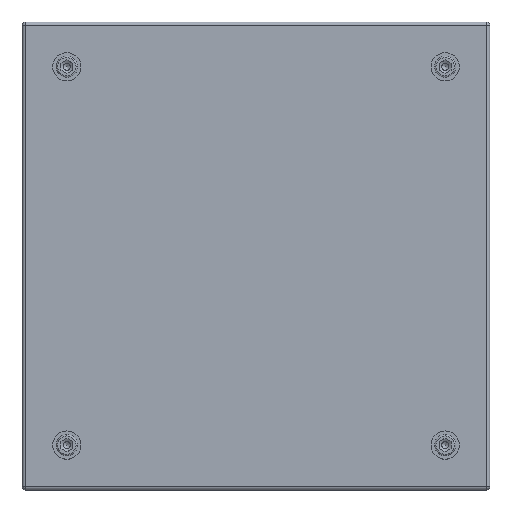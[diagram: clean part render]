
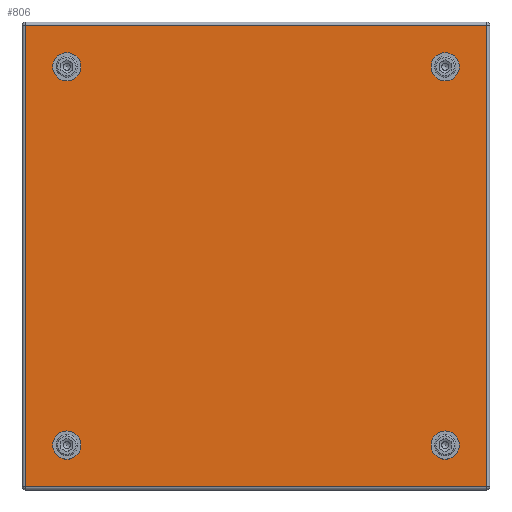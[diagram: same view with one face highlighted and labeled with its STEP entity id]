
A CAD part, top view. The second image highlights one B-rep face of the part: STEP entity #806.
In plain terms, the highlighted planar face has unit normal (0, 0, 1).
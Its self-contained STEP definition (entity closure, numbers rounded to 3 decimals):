
#806=ADVANCED_FACE('',(#3204,#3206,#3208,#3210,#3212),#3214,.T.);
#3204=FACE_BOUND('',#3205,.T.);
#3205=EDGE_LOOP('',(#8454,#8455,#8456,#8457));
#3206=FACE_BOUND('',#3207,.T.);
#3207=EDGE_LOOP('',(#8458));
#3208=FACE_BOUND('',#3209,.T.);
#3209=EDGE_LOOP('',(#8459));
#3210=FACE_BOUND('',#3211,.T.);
#3211=EDGE_LOOP('',(#8460));
#3212=FACE_BOUND('',#3213,.T.);
#3213=EDGE_LOOP('',(#8461));
#3214=PLANE('',#3215);
#3215=AXIS2_PLACEMENT_3D('',#3216,#3217,#3218);
#3216=CARTESIAN_POINT('',(0.,0.,0.));
#3217=DIRECTION('',(0.,0.,1.));
#3218=DIRECTION('',(0.,1.,0.));
#8454=ORIENTED_EDGE('',*,*,#10824,.T.);
#8455=ORIENTED_EDGE('',*,*,#10864,.T.);
#8456=ORIENTED_EDGE('',*,*,#10808,.T.);
#8457=ORIENTED_EDGE('',*,*,#10865,.T.);
#8458=ORIENTED_EDGE('',*,*,#10866,.T.);
#8459=ORIENTED_EDGE('',*,*,#10867,.T.);
#8460=ORIENTED_EDGE('',*,*,#10868,.T.);
#8461=ORIENTED_EDGE('',*,*,#10869,.T.);
#10808=EDGE_CURVE('',#12851,#12849,#12852,.T.);
#10824=EDGE_CURVE('',#12875,#12873,#12876,.T.);
#10864=EDGE_CURVE('',#12873,#12851,#12938,.T.);
#10865=EDGE_CURVE('',#12849,#12875,#12939,.T.);
#10866=EDGE_CURVE('',#12940,#12940,#12941,.F.);
#10867=EDGE_CURVE('',#12942,#12942,#12943,.F.);
#10868=EDGE_CURVE('',#12944,#12944,#12945,.F.);
#10869=EDGE_CURVE('',#12946,#12946,#12947,.F.);
#12849=VERTEX_POINT('',#16853);
#12851=VERTEX_POINT('',#16858);
#12852=LINE('',#16859,#16860);
#12873=VERTEX_POINT('',#16917);
#12875=VERTEX_POINT('',#16922);
#12876=LINE('',#16923,#16924);
#12938=LINE('',#17089,#17090);
#12939=LINE('',#17092,#17093);
#12940=VERTEX_POINT('',#17095);
#12941=CIRCLE('',#17096,8.);
#12942=VERTEX_POINT('',#17100);
#12943=CIRCLE('',#17101,8.);
#12944=VERTEX_POINT('',#17105);
#12945=CIRCLE('',#17106,8.);
#12946=VERTEX_POINT('',#17110);
#12947=CIRCLE('',#17111,8.);
#16853=CARTESIAN_POINT('',(195.7,-195.7,0.));
#16858=CARTESIAN_POINT('',(-195.7,-195.7,0.));
#16859=CARTESIAN_POINT('',(-195.7,-195.7,0.));
#16860=VECTOR('',#16861,1.);
#16861=DIRECTION('',(1.,0.,0.));
#16917=CARTESIAN_POINT('',(-195.7,195.7,0.));
#16922=CARTESIAN_POINT('',(195.7,195.7,0.));
#16923=CARTESIAN_POINT('',(195.7,195.7,0.));
#16924=VECTOR('',#16925,1.);
#16925=DIRECTION('',(-1.,0.,0.));
#17089=CARTESIAN_POINT('',(-195.7,195.7,0.));
#17090=VECTOR('',#17091,1.);
#17091=DIRECTION('',(0.,-1.,0.));
#17092=CARTESIAN_POINT('',(195.7,-195.7,0.));
#17093=VECTOR('',#17094,1.);
#17094=DIRECTION('',(0.,1.,0.));
#17095=CARTESIAN_POINT('',(160.5,168.5,0.));
#17096=AXIS2_PLACEMENT_3D('',#17097,#17098,#17099);
#17097=CARTESIAN_POINT('',(160.5,160.5,0.));
#17098=DIRECTION('',(0.,0.,1.));
#17099=DIRECTION('',(0.,1.,0.));
#17100=CARTESIAN_POINT('',(160.5,-152.5,0.));
#17101=AXIS2_PLACEMENT_3D('',#17102,#17103,#17104);
#17102=CARTESIAN_POINT('',(160.5,-160.5,0.));
#17103=DIRECTION('',(0.,0.,1.));
#17104=DIRECTION('',(0.,1.,0.));
#17105=CARTESIAN_POINT('',(-160.5,168.5,0.));
#17106=AXIS2_PLACEMENT_3D('',#17107,#17108,#17109);
#17107=CARTESIAN_POINT('',(-160.5,160.5,0.));
#17108=DIRECTION('',(0.,0.,1.));
#17109=DIRECTION('',(0.,1.,0.));
#17110=CARTESIAN_POINT('',(-160.5,-152.5,0.));
#17111=AXIS2_PLACEMENT_3D('',#17112,#17113,#17114);
#17112=CARTESIAN_POINT('',(-160.5,-160.5,0.));
#17113=DIRECTION('',(0.,0.,1.));
#17114=DIRECTION('',(0.,1.,0.));
